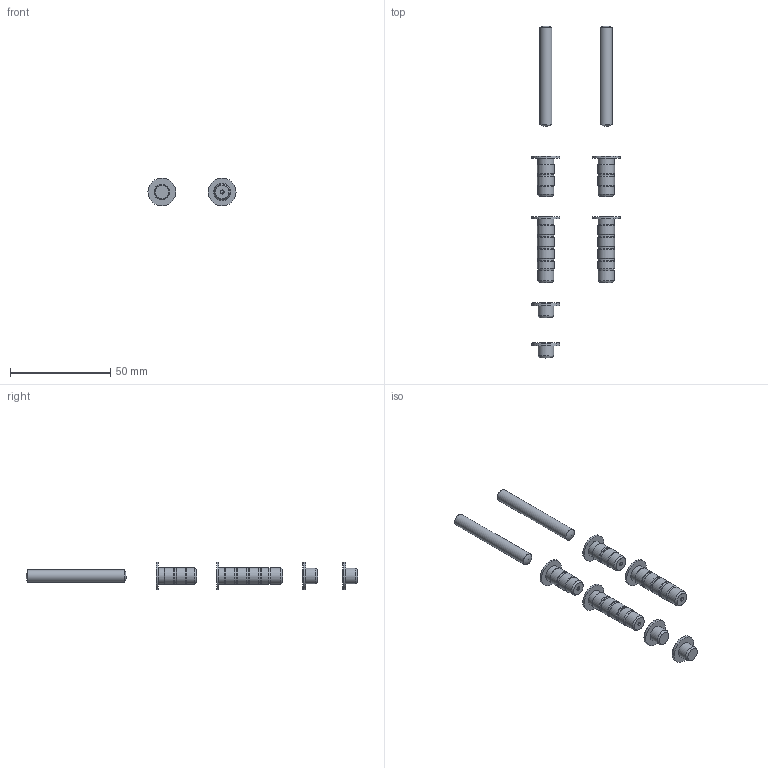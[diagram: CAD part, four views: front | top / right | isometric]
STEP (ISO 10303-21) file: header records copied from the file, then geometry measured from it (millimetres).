
FILE_DESCRIPTION( ( 'STEP AP203' ), '1' );
FILE_NAME( 'C:/Temp/Ganter_Step_05_03_2020/data/3_3/gn2290/Bolt set GN 2290-2-GR.stp', '2020-03-12T12:08:05', ( 'License CC BY-ND 4.0' ), ( 'CADENAS' ), ' ', 'PARTsolutions', ' ' );
FILE_SCHEMA( ( 'CONFIG_CONTROL_DESIGN' ) );
Length unit declared in the file: millimetre
Products named in the file (6): Bolt set GN 2290-2-GR; _Bolt set GN 2290-2-GR-1; _Bolt set GN 2290-2-GR-2; _Bolt set GN 2290-2-GR-4; _Bolt set GN 2290-2-GR-3; _Bolt set GN 2290-2-GR-5
Assembly tree (8 placements, depth 2):
  Bolt set GN 2290-2-GR
    _Bolt set GN 2290-2-GR-1
    _Bolt set GN 2290-2-GR-2  x2
    _Bolt set GN 2290-2-GR-4  x2
    _Bolt set GN 2290-2-GR-3  x2
    _Bolt set GN 2290-2-GR-5
Bounding box: 43.9 x 165.5 x 13.9 mm (x, y, z)
Volume: 6825.3 mm3; surface area: 8969.1 mm2
Topology: 8 solids, 8 shells, 104 faces, 190 edges, 108 vertices
Faces by surface type: cylinder 46, cone 30, plane 22, sphere 4, torus 2
Full cylindrical faces by diameter (mm): 2 x4, 6 x2, 6.15 x4, 7.8 x2, 8 x16, 8.5 x12, 13.9 x6
Entity records: 1317 total; most frequent: DIRECTION 232, CARTESIAN_POINT 172, AXIS2_PLACEMENT_3D 116, EDGE_LOOP 104, ORIENTED_EDGE 104, FACE_OUTER_BOUND 80, VERTEX_POINT 56, ADVANCED_FACE 55
